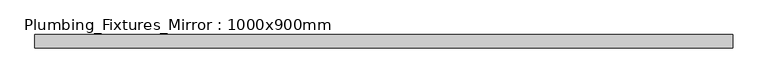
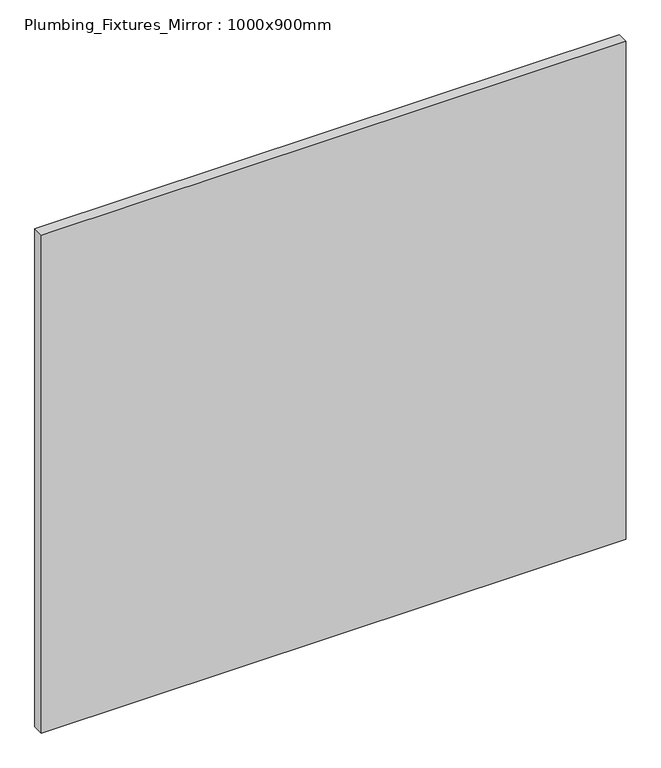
"""IFC4 building model written with IfcOpenShell, lengths in millimetres: proxy geometry, Plumbing_Fixtures_Mirror : 1000x900mm."""

import ifcopenshell
import ifcopenshell.guid

model = None  # the IFC model being written
_history = None  # IfcOwnerHistory: only IFC2X3 demands one
_inside = {}  # id of a spatial element -> (the spatial element, [elements in it])
_under = {}  # id of a project, library or spatial element -> (it, [spatial elements below it])
_declared = {}  # id of a project -> (the project, [libraries it declares])
_typed = {}  # id of a type object -> (the type object, [elements of that type])
_made_of = {}  # id of a material, layer set ... -> (it, [elements and type objects made of it])


def new_model(schema):
    """Start an empty IFC model of exactly this schema.

    Asked for "IFC4X3", IfcOpenShell would pick the latest addendum, in which some entities
    have other attributes; the version numbers below select the first issue.
    IFC2X3 requires an IfcOwnerHistory on every rooted entity: one is made here for all.
    """
    global model, _history
    if schema == "IFC4X3":
        model = ifcopenshell.file(schema_version=(4, 3, 0, 0))
    else:
        model = ifcopenshell.file(schema=schema)
    _inside.clear()
    _under.clear()
    _declared.clear()
    _typed.clear()
    _made_of.clear()
    _history = None
    if model.schema == "IFC2X3":
        org = make("IfcOrganization", Name="unknown")
        user = make(
            "IfcPersonAndOrganization",
            ThePerson=make("IfcPerson", FamilyName="unknown"),
            TheOrganization=org,
        )
        app = make(
            "IfcApplication",
            ApplicationDeveloper=org,
            Version="unknown",
            ApplicationFullName="unknown",
            ApplicationIdentifier="unknown",
        )
        _history = make(
            "IfcOwnerHistory",
            OwningUser=user,
            OwningApplication=app,
            ChangeAction="ADDED",
            CreationDate=0,
        )
    return model


def make(cls, **values):
    """One entity of the class cls with the attributes given. An attribute that is None is left unset."""
    return model.create_entity(
        cls, **{name: value for name, value in values.items() if value is not None}
    )


def rooted(cls, **values):
    """An entity with a GlobalId (a new one), such as an element, a storey or a relation."""
    return make(cls, GlobalId=ifcopenshell.guid.new(), OwnerHistory=_history, **values)


def si_unit(unit_type, name, prefix=None):
    """IfcSIUnit, for example si_unit("LENGTHUNIT", "METRE", prefix="MILLI")."""
    return make("IfcSIUnit", UnitType=unit_type, Prefix=prefix, Name=name)


def assignment(units):
    """IfcUnitAssignment: the units of a project."""
    return None if units is None else make("IfcUnitAssignment", Units=units)


def point(xyz):
    """IfcCartesianPoint."""
    return None if xyz is None else make("IfcCartesianPoint", Coordinates=xyz)


def direction(xyz):
    """IfcDirection."""
    return None if xyz is None else make("IfcDirection", DirectionRatios=xyz)


def frame(location, z_axis=None, x_axis=None):
    """IfcAxis2Placement3D, a coordinate frame: its origin and axes. An axis left out is left unset."""
    return make(
        "IfcAxis2Placement3D",
        Location=point(location),
        Axis=direction(z_axis),
        RefDirection=direction(x_axis),
    )


def origin():
    """The frame at (0, 0, 0) with its axes left unset."""
    return frame((0.0, 0.0, 0.0))


def place(relative_to, where):
    """IfcLocalPlacement: puts the frame where relative to a parent placement (None: the world)."""
    return make(
        "IfcLocalPlacement", PlacementRelTo=relative_to, RelativePlacement=where
    )


def context(
    kind, dimensions, precision=None, world=None, true_north=None, identifier=None
):
    """IfcGeometricRepresentationContext, for example the 3D "Model" context."""
    return make(
        "IfcGeometricRepresentationContext",
        ContextIdentifier=identifier,
        ContextType=kind,
        CoordinateSpaceDimension=dimensions,
        Precision=precision,
        WorldCoordinateSystem=world,
        TrueNorth=true_north,
    )


def project(units=None, contexts=None):
    """IfcProject with its units and contexts."""
    return rooted(
        "IfcProject",
        Name="project",
        RepresentationContexts=contexts,
        UnitsInContext=assignment(units),
    )


def spatial(cls, under=None, at=None, **own):
    """A site, building, storey or space (cls), placed at a placement, below another one or the project."""
    s = rooted(cls, ObjectPlacement=at, **own)
    if under is not None:
        _under.setdefault(under.id(), (under, []))[1].append(s)
    return s


def polyline(points):
    """IfcPolyline through the points."""
    return make("IfcPolyline", Points=[point(p) for p in points])


def outline(outer, holes=None, kind="AREA"):
    """IfcArbitraryClosedProfileDef: a profile drawn as a closed curve; with holes, ...WithVoids."""
    if holes is None:
        return make("IfcArbitraryClosedProfileDef", ProfileType=kind, OuterCurve=outer)
    return make(
        "IfcArbitraryProfileDefWithVoids",
        ProfileType=kind,
        OuterCurve=outer,
        InnerCurves=holes,
    )


def extrude(swept, where, along, depth):
    """IfcExtrudedAreaSolid: the profile swept, set in the frame where, extruded along a direction by depth."""
    return make(
        "IfcExtrudedAreaSolid",
        SweptArea=swept,
        Position=where,
        ExtrudedDirection=direction(along),
        Depth=depth,
    )


def shape(context_of_items, identifier, shape_type, items):
    """IfcShapeRepresentation: the items that make up one representation, for example the "Body"."""
    return make(
        "IfcShapeRepresentation",
        ContextOfItems=context_of_items,
        RepresentationIdentifier=identifier,
        RepresentationType=shape_type,
        Items=items,
    )


def source(mapping_origin, context_of_items, identifier, shape_type, items):
    """IfcRepresentationMap: a shape defined once, which mapped items show again and again."""
    return make(
        "IfcRepresentationMap",
        MappingOrigin=mapping_origin,
        MappedRepresentation=shape(context_of_items, identifier, shape_type, items),
    )


def transform(
    local_origin,
    x_axis=None,
    y_axis=None,
    z_axis=None,
    scale=None,
    scale2=None,
    scale3=None,
    uniform=True,
):
    """IfcCartesianTransformationOperator3D, or its non-uniform kind. x_axis, y_axis, z_axis: its Axis1, 2, 3."""
    if uniform:
        return make(
            "IfcCartesianTransformationOperator3D",
            Axis1=direction(x_axis),
            Axis2=direction(y_axis),
            LocalOrigin=point(local_origin),
            Scale=scale,
            Axis3=direction(z_axis),
        )
    return make(
        "IfcCartesianTransformationOperator3DnonUniform",
        Axis1=direction(x_axis),
        Axis2=direction(y_axis),
        LocalOrigin=point(local_origin),
        Scale=scale,
        Axis3=direction(z_axis),
        Scale2=scale2,
        Scale3=scale3,
    )


def mapped(mapping_source, mapping_target):
    """IfcMappedItem: shows the shape of a source again, moved by a transform."""
    return make(
        "IfcMappedItem", MappingSource=mapping_source, MappingTarget=mapping_target
    )


def made_of(thing, what):
    """Note that an element or type object is made of a material, layer set ...; save() writes the relation."""
    if what is not None:
        _made_of.setdefault(what.id(), (what, []))[1].append(thing)
    return thing


def element(
    cls,
    number,
    at=None,
    inside=None,
    cuts=None,
    type_object=None,
    material=None,
    context=None,
    identifier="Body",
    shape_type=None,
    held_by="IfcProductDefinitionShape",
    body=None,
    shapes=None,
    **own,
):
    """One element of the class cls, such as IfcWall. Its Tag is "e" and its number.

    at: its placement. inside: the storey or other place that contains it. cuts: it is an
    opening in that element (IfcRelVoidsElement). A single representation is given by context,
    identifier, shape_type and body (its items); several are given by shapes. held_by: the class
    of the entity that holds the representations. save() writes the other relations.
    """
    e = rooted(cls, Tag="e%d" % number, ObjectPlacement=at, **own)
    if body is not None:
        shapes = [shape(context, identifier, shape_type, body)]
    if shapes is not None:
        e.Representation = make(held_by, Representations=shapes)
    if inside is not None:
        _inside.setdefault(inside.id(), (inside, []))[1].append(e)
    if cuts is not None:
        rooted(
            "IfcRelVoidsElement", RelatingBuildingElement=cuts, RelatedOpeningElement=e
        )
    if type_object is not None:
        _typed.setdefault(type_object.id(), (type_object, []))[1].append(e)
    return made_of(e, material)


def aggregate(whole, parts):
    """IfcRelAggregates: a whole, such as a stair, and the parts it consists of."""
    return rooted("IfcRelAggregates", RelatingObject=whole, RelatedObjects=parts)


def save(model, path):
    """Write the relations noted so far, then the file.

    IfcRelAggregates (storeys below a building ...), IfcRelContainedInSpatialStructure (elements
    in a storey), IfcRelDefinesByType, IfcRelAssociatesMaterial and IfcRelDeclares: one each for
    every whole, place, type object, material and project.
    """
    for whole, parts in _under.values():
        aggregate(whole, parts)
    for where, things in _inside.values():
        rooted(
            "IfcRelContainedInSpatialStructure",
            RelatedElements=things,
            RelatingStructure=where,
        )
    for kind, things in _typed.values():
        rooted("IfcRelDefinesByType", RelatedObjects=things, RelatingType=kind)
    for what, things in _made_of.values():
        rooted("IfcRelAssociatesMaterial", RelatedObjects=things, RelatingMaterial=what)
    for by, libraries in _declared.values():
        rooted("IfcRelDeclares", RelatingContext=by, RelatedDefinitions=libraries)
    model.write(path)


def plumbing_fixtures_mirror_1000x900mm_83a35165(model_context):
    return source(origin(), model_context, "Body", "SweptSolid", [
        extrude(outline(polyline([(-475.5296989, -50.3), (-475.5296989, -31.25), (524.4703011, -31.25), (524.4703011, -50.3), (-475.5296989, -50.3)])), frame((0.0, 0.0, 1200.0), z_axis=(0.0, 0.0, 1.0), x_axis=(1.0, 0.0, 0.0)), (0.0, 0.0, 1.0), 900.0),
    ])


if __name__ == "__main__":
    model = new_model("IFC4")
    model_context = context("Model", 3, world=origin())
    ifc_project = project(units=[si_unit("LENGTHUNIT", "METRE", prefix="MILLI")], contexts=[model_context])
    site = spatial("IfcSite", under=ifc_project)
    building = spatial("IfcBuilding", under=site)
    placement = place(None, origin())
    plumbing_fixtures_mirror_1000x900mm_shape = plumbing_fixtures_mirror_1000x900mm_83a35165(model_context)
    element("IfcBuildingElementProxy", 1, Name="Plumbing_Fixtures_Mirror : 1000x900mm", ObjectType="Plumbing_Fixtures_Mirror : 1000x900mm", at=placement, inside=building, context=model_context, shape_type="MappedRepresentation", body=[
        mapped(plumbing_fixtures_mirror_1000x900mm_shape, transform((0.0, 0.0, 0.0), x_axis=(1.0, 0.0, 0.0), y_axis=(0.0, 1.0, 0.0), z_axis=(0.0, 0.0, 1.0))),
    ])
    save(model, "model.ifc")
